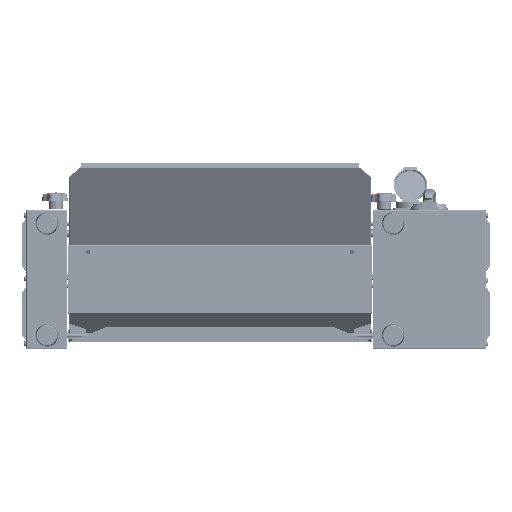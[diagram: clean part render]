
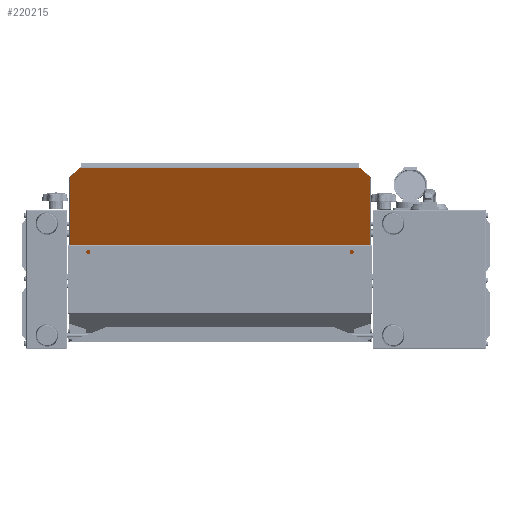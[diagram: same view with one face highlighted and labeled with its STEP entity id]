
A CAD part, front view. The second image highlights one B-rep face of the part: STEP entity #220215.
In plain terms, the highlighted planar face has unit normal (0, -0.874, -0.485).
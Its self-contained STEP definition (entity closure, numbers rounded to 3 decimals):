
#5308 = EDGE_CURVE ( 'NONE', #159009, #188225, #51923, .T. ) ;
#23557 = LINE ( 'NONE', #54755, #194841 ) ;
#23862 = VECTOR ( 'NONE', #125261, 1000. ) ;
#34740 = ORIENTED_EDGE ( 'NONE', *, *, #171012, .T. ) ;
#47198 = LINE ( 'NONE', #256550, #23862 ) ;
#47403 = VECTOR ( 'NONE', #92872, 1000. ) ;
#51923 = LINE ( 'NONE', #160916, #312411 ) ;
#54755 = CARTESIAN_POINT ( 'NONE',  ( 2.5, -287.285, 148.732 ) ) ;
#65220 = LINE ( 'NONE', #329990, #47403 ) ;
#69821 = VECTOR ( 'NONE', #293422, 1000. ) ;
#83728 = VERTEX_POINT ( 'NONE', #227846 ) ;
#85161 = DIRECTION ( 'NONE',  ( 0., -0.485, 0.874 ) ) ;
#92787 = VECTOR ( 'NONE', #85161, 1000. ) ;
#92872 = DIRECTION ( 'NONE',  ( -0.707, -0.343, 0.618 ) ) ;
#106242 = ORIENTED_EDGE ( 'NONE', *, *, #312571, .T. ) ;
#109418 = ORIENTED_EDGE ( 'NONE', *, *, #252555, .F. ) ;
#112373 = VERTEX_POINT ( 'NONE', #334570 ) ;
#123391 = ORIENTED_EDGE ( 'NONE', *, *, #242606, .F. ) ;
#125261 = DIRECTION ( 'NONE',  ( 0.707, -0.343, 0.618 ) ) ;
#126705 = EDGE_CURVE ( 'NONE', #112373, #83728, #190458, .T. ) ;
#127298 = PLANE ( 'NONE',  #236756 ) ;
#128488 = CARTESIAN_POINT ( 'NONE',  ( 3.6, -287.285, 148.732 ) ) ;
#128972 = FACE_OUTER_BOUND ( 'NONE', #245756, .T. ) ;
#132667 = CARTESIAN_POINT ( 'NONE',  ( 2.5, -287.285, 148.732 ) ) ;
#149395 = VERTEX_POINT ( 'NONE', #173154 ) ;
#149726 = CARTESIAN_POINT ( 'NONE',  ( 441.4, -287.285, 148.732 ) ) ;
#157594 = DIRECTION ( 'NONE',  ( 1., 0., 0. ) ) ;
#159009 = VERTEX_POINT ( 'NONE', #208335 ) ;
#160916 = CARTESIAN_POINT ( 'NONE',  ( 2.5, -295., 162.635 ) ) ;
#161867 = LINE ( 'NONE', #132667, #69821 ) ;
#165130 = CARTESIAN_POINT ( 'NONE',  ( 426.6, -295., 162.635 ) ) ;
#166467 = LINE ( 'NONE', #322209, #92787 ) ;
#171012 = EDGE_CURVE ( 'NONE', #83728, #255604, #166467, .T. ) ;
#173154 = CARTESIAN_POINT ( 'NONE',  ( 442.5, -287.285, 148.732 ) ) ;
#181774 = ORIENTED_EDGE ( 'NONE', *, *, #126705, .T. ) ;
#186562 = CARTESIAN_POINT ( 'NONE',  ( 3.6, -287.285, 148.732 ) ) ;
#188225 = VERTEX_POINT ( 'NONE', #165130 ) ;
#190458 = LINE ( 'NONE', #218040, #228578 ) ;
#194841 = VECTOR ( 'NONE', #314391, 1000. ) ;
#201015 = DIRECTION ( 'NONE',  ( 0., 0.485, -0.874 ) ) ;
#203039 = VERTEX_POINT ( 'NONE', #283043 ) ;
#208335 = CARTESIAN_POINT ( 'NONE',  ( 18.4, -295., 162.635 ) ) ;
#208405 = DIRECTION ( 'NONE',  ( 1., 0., 0. ) ) ;
#218040 = CARTESIAN_POINT ( 'NONE',  ( 2.5, -178.743, -46.873 ) ) ;
#220215 = ADVANCED_FACE ( 'NONE', ( #128972 ), #127298, .F. ) ;
#227671 = ORIENTED_EDGE ( 'NONE', *, *, #312707, .F. ) ;
#227846 = CARTESIAN_POINT ( 'NONE',  ( 441.4, -178.743, -46.873 ) ) ;
#228578 = VECTOR ( 'NONE', #323690, 1000. ) ;
#230331 = LINE ( 'NONE', #186562, #271179 ) ;
#230902 = CARTESIAN_POINT ( 'NONE',  ( 2.5, -178.696, -46.958 ) ) ;
#236756 = AXIS2_PLACEMENT_3D ( 'NONE', #230902, #341720, #208405 ) ;
#242606 = EDGE_CURVE ( 'NONE', #316546, #203039, #23557, .T. ) ;
#245756 = EDGE_LOOP ( 'NONE', ( #123391, #303311, #181774, #34740, #227671, #106242, #279828, #109418 ) ) ;
#252555 = EDGE_CURVE ( 'NONE', #203039, #159009, #47198, .T. ) ;
#255604 = VERTEX_POINT ( 'NONE', #149726 ) ;
#256550 = CARTESIAN_POINT ( 'NONE',  ( 2.5, -287.285, 148.732 ) ) ;
#271179 = VECTOR ( 'NONE', #201015, 1000. ) ;
#279828 = ORIENTED_EDGE ( 'NONE', *, *, #5308, .F. ) ;
#283043 = CARTESIAN_POINT ( 'NONE',  ( 2.5, -287.285, 148.732 ) ) ;
#293422 = DIRECTION ( 'NONE',  ( -1., 0., 0. ) ) ;
#303311 = ORIENTED_EDGE ( 'NONE', *, *, #317605, .T. ) ;
#312411 = VECTOR ( 'NONE', #157594, 1000. ) ;
#312571 = EDGE_CURVE ( 'NONE', #149395, #188225, #65220, .T. ) ;
#312707 = EDGE_CURVE ( 'NONE', #149395, #255604, #161867, .T. ) ;
#314391 = DIRECTION ( 'NONE',  ( -1., 0., 0. ) ) ;
#316546 = VERTEX_POINT ( 'NONE', #128488 ) ;
#317605 = EDGE_CURVE ( 'NONE', #316546, #112373, #230331, .T. ) ;
#322209 = CARTESIAN_POINT ( 'NONE',  ( 441.4, -178.743, -46.873 ) ) ;
#323690 = DIRECTION ( 'NONE',  ( 1., 0., 0. ) ) ;
#329990 = CARTESIAN_POINT ( 'NONE',  ( 334.4, -339.736, 243.255 ) ) ;
#334570 = CARTESIAN_POINT ( 'NONE',  ( 3.6, -178.743, -46.873 ) ) ;
#341720 = DIRECTION ( 'NONE',  ( 0., 0.874, 0.485 ) ) ;
